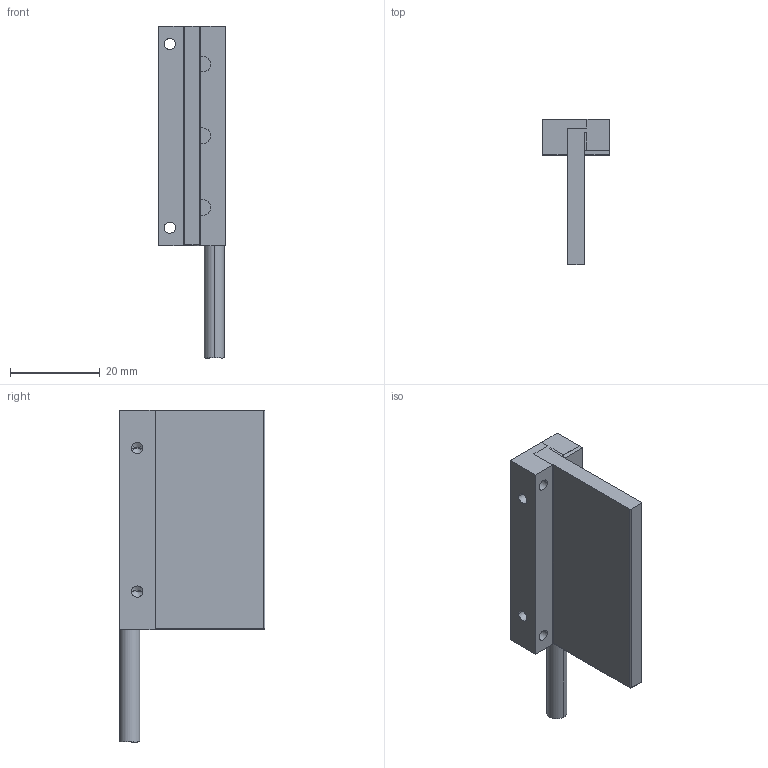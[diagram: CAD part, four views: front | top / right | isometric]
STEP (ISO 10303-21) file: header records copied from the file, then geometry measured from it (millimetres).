
FILE_DESCRIPTION (( 'STEP AP203' ), '1' );
FILE_NAME ('IL32-3 CU 3D.STEP', '2020-10-25T12:41:51', ( '' ), ( '' ), 'SwSTEP 2.0', 'SolidWorks 2018', '' );
FILE_SCHEMA (( 'CONFIG_CONTROL_DESIGN' ));
Length unit declared in the file: millimetre
Products named in the file (3): IL32-3 housing; IL32-3 CU 3D; Casting IL34-3
Assembly tree (2 placements, depth 2):
  IL32-3 CU 3D
    IL32-3 housing
    Casting IL34-3
Bounding box: 14.9 x 32.45 x 74.07 mm (x, y, z)
Volume: 10616 mm3; surface area: 7786.1 mm2
Topology: 2 solids, 2 shells, 100 faces, 273 edges, 168 vertices
Faces by surface type: plane 57, cylinder 34, cone 8, sphere 1
Entity records: 3399 total; most frequent: DIRECTION 543, CARTESIAN_POINT 542, ORIENTED_EDGE 532, EDGE_CURVE 266, VECTOR 197, LINE 197, AXIS2_PLACEMENT_3D 173, VERTEX_POINT 168
